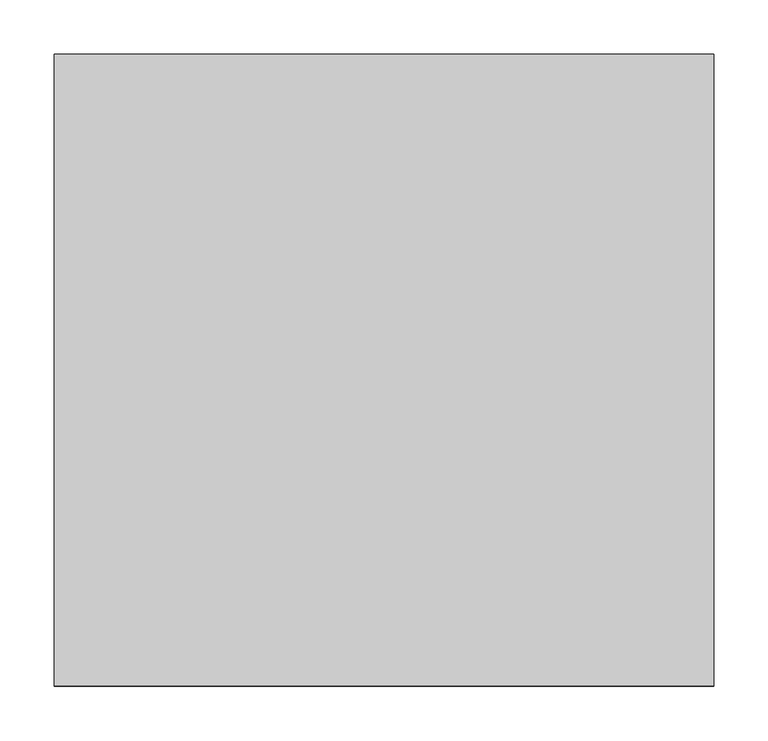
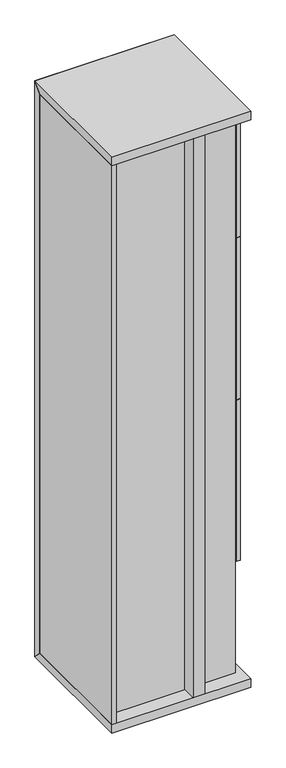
"""IFC4 building model written with IfcOpenShell, lengths in millimetres: proxy geometry, AERO^OFFICE 4_112 CREDENZA LEFT-PARTS SOLID."""

from ifc_helpers import new_model, si_unit, frame, origin, place, context, project, spatial, polyline, outline, extrude, source, transform, mapped, element, save


def generic_models_31887420(model_context):
    return source(origin(), model_context, "Body", "SweptSolid", [
        extrude(outline(polyline([(581.025, 114.3), (47.625, 114.3), (47.625, 133.35), (581.025, 133.35), (581.025, 114.3)])), frame((0.0, 0.0, 2510.6653246), z_axis=(0.0, 0.0, 1.0), x_axis=(1.0, 0.0, 0.0)), (0.0, 0.0, 1.0), 555.625),
        extrude(outline(polyline([(581.025, 555.625), (600.075, 555.625), (600.075, 63.5), (581.025, 63.5), (581.025, 555.625)])), frame((0.0, 0.0, 2497.9653246), z_axis=(0.0, 0.0, 1.0), x_axis=(1.0, 0.0, 0.0)), (0.0, 0.0, 1.0), 585.7875),
        extrude(outline(polyline([(577.85, 546.1), (577.85, 82.55), (19.05, 82.55), (19.05, 546.1), (577.85, 546.1)])), frame((0.0, 0.0, 2483.6778246), z_axis=(0.0, 0.0, 1.0), x_axis=(1.0, 0.0, 0.0)), (0.0, 0.0, 1.0), 19.05),
        extrude(outline(polyline([(581.025, 555.625), (600.075, 555.625), (600.075, 392.90625), (581.025, 392.90625), (581.025, 555.625)])), frame((0.0, 0.0, 998.5715746), z_axis=(0.0, 0.0, 1.0), x_axis=(1.0, 0.0, 0.0)), (0.0, 0.0, 1.0), 747.315625),
        extrude(outline(polyline([(19.05, 63.5), (19.05, 82.55), (577.85, 82.55), (577.85, 63.5), (19.05, 63.5)])), frame((0.0, 0.0, 483.4278246), z_axis=(0.0, 0.0, 1.0), x_axis=(1.0, 0.0, 0.0)), (0.0, 0.0, 1.0), 2590.8),
        extrude(outline(polyline([(584.2, 3112.3278246), (546.1, 3074.2278246), (0.0, 3074.2278246), (0.0, 3112.3278246), (584.2, 3112.3278246)])), frame((0.0, 0.0, 0.0), z_axis=(1.0, 0.0, 0.0), x_axis=(0.0, 1.0, 0.0)), (0.0, 0.0, 1.0), 609.6),
        extrude(outline(polyline([(600.075, 390.525), (600.075, 63.5), (581.025, 63.5), (581.025, 390.525), (600.075, 390.525)])), frame((0.0, 0.0, 1748.2684496), z_axis=(0.0, 0.0, 1.0), x_axis=(1.0, 0.0, 0.0)), (0.0, 0.0, 1.0), 747.315625),
        extrude(outline(polyline([(584.2, 445.3278246), (0.0, 445.3278246), (0.0, 483.4278246), (546.1, 483.4278246), (584.2, 445.3278246)])), frame((0.0, 0.0, 0.0), z_axis=(1.0, 0.0, 0.0), x_axis=(0.0, 1.0, 0.0)), (0.0, 0.0, 1.0), 609.6),
        extrude(outline(polyline([(19.05, 0.0), (0.0, 0.0), (0.0, 546.1), (19.05, 546.1), (19.05, 0.0)])), frame((0.0, 0.0, 483.4278246), z_axis=(0.0, 0.0, 1.0), x_axis=(1.0, 0.0, 0.0)), (0.0, 0.0, 1.0), 2590.8),
        extrude(outline(polyline([(600.075, 390.525), (600.075, 63.5), (581.025, 63.5), (581.025, 390.525), (600.075, 390.525)])), frame((0.0, 0.0, 998.5715746), z_axis=(0.0, 0.0, 1.0), x_axis=(1.0, 0.0, 0.0)), (0.0, 0.0, 1.0), 747.315625),
        extrude(outline(polyline([(577.85, 546.1), (577.85, 82.55), (19.05, 82.55), (19.05, 546.1), (577.85, 546.1)])), frame((0.0, 0.0, 997.7778246), z_axis=(0.0, 0.0, 1.0), x_axis=(1.0, 0.0, 0.0)), (0.0, 0.0, 1.0), 19.05),
        extrude(outline(polyline([(19.05, 304.8), (19.05, 323.85), (552.45, 323.85), (552.45, 304.8), (19.05, 304.8)])), frame((0.0, 0.0, 484.2215746), z_axis=(0.0, 0.0, 1.0), x_axis=(1.0, 0.0, 0.0)), (0.0, 0.0, 1.0), 512.7625),
        extrude(outline(polyline([(584.2, 445.3278246), (546.1, 483.4278246), (546.1, 3074.2278246), (584.2, 3112.3278246), (584.2, 445.3278246)])), frame((0.0, 0.0, 0.0), z_axis=(1.0, 0.0, 0.0), x_axis=(0.0, 1.0, 0.0)), (0.0, 0.0, 1.0), 609.6),
        extrude(outline(polyline([(581.025, 555.625), (600.075, 555.625), (600.075, 392.90625), (581.025, 392.90625), (581.025, 555.625)])), frame((0.0, 0.0, 1748.2684496), z_axis=(0.0, 0.0, 1.0), x_axis=(1.0, 0.0, 0.0)), (0.0, 0.0, 1.0), 747.315625),
        extrude(outline(polyline([(406.4, 0.0), (355.6, 0.0), (355.6, 63.5), (406.4, 63.5), (406.4, 0.0)])), frame((0.0, 0.0, 483.4278246), z_axis=(0.0, 0.0, 1.0), x_axis=(1.0, 0.0, 0.0)), (0.0, 0.0, 1.0), 2590.8),
    ])


if __name__ == "__main__":
    model = new_model("IFC4")
    model_context = context("Model", 3, world=origin())
    ifc_project = project(units=[si_unit("LENGTHUNIT", "METRE", prefix="MILLI")], contexts=[model_context])
    site = spatial("IfcSite", under=ifc_project)
    building = spatial("IfcBuilding", under=site)
    placement = place(None, origin())
    generic_models_shape = generic_models_31887420(model_context)
    element("IfcBuildingElementProxy", 1, Name="AERO^OFFICE 4_112 CREDENZA LEFT-PARTS SOLID", ObjectType="AERO^OFFICE 4_112 CREDENZA LEFT-PARTS SOLID", at=placement, inside=building, context=model_context, shape_type="MappedRepresentation", body=[
        mapped(generic_models_shape, transform((0.0, 0.0, 0.0), x_axis=(1.0, 0.0, 0.0), y_axis=(0.0, 1.0, 0.0), z_axis=(0.0, 0.0, 1.0))),
    ])
    save(model, "model.ifc")
